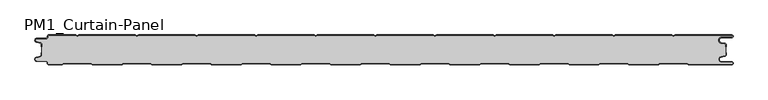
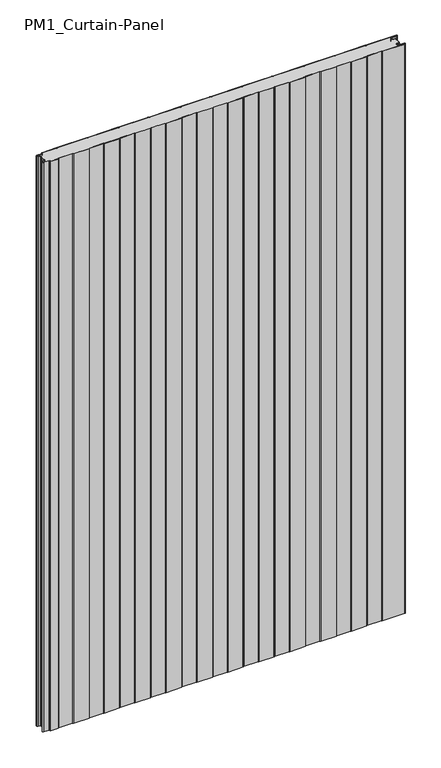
"""IFC4 building model written with IfcOpenShell, lengths in millimetres: plate geometry, PM1_Curtain-Panel : ACH_PM1_Stone-wool-Panel_50M."""

from ifc_helpers import new_model, si_unit, point, frame_2d, origin, origin_with_axes, place, context, project, spatial, polyline, circle_curve, trimmed, segment, composite_curve, outline, extrude, source, transform, mapped, element, save


def pm1_curtain_panel_a69c14b6(model_context):
    return source(origin(), model_context, "Body", "SweptSolid", [
        extrude(outline(composite_curve([segment(trimmed(circle_curve(frame_2d((-577.0, -15.878557)), 2.0), [point((-575.0, -15.878557))], [point((-576.5500978, -13.9298169))], True, "CARTESIAN"), True, "CONTINUOUS"), segment(polyline([(-576.5500978, -13.9298169), (-582.7098239, -12.507732)]), True, "CONTINUOUS"), segment(trimmed(circle_curve(frame_2d((-581.9, -9.0)), 3.6), [point((-582.7098239, -12.507732))], [point((-581.9, -5.4))], False, "CARTESIAN"), True, "CONTINUOUS"), segment(polyline([(-581.9, -5.4), (-566.4, -5.4)]), True, "CONTINUOUS"), segment(trimmed(circle_curve(frame_2d((-566.4, -3.4)), 2.0), [point((-566.4, -5.4))], [point((-564.4, -3.4))], True, "CARTESIAN"), True, "CONTINUOUS"), segment(polyline([(-564.4, -3.4), (-564.4, -2.0)]), True, "CONTINUOUS"), segment(trimmed(circle_curve(frame_2d((-562.4, -2.0)), 2.0), [point((-564.4, -2.0))], [point((-562.4, 0.0))], False, "CARTESIAN"), True, "CONTINUOUS"), segment(polyline([(-562.4, 0.0), (-517.0999995, 0.0), (-514.4, -1.5588455), (-511.7000005, 0.0), (-417.0999995, 0.0), (-414.4, -1.5588455), (-411.7000005, 0.0), (-317.0999995, 0.0), (-314.4, -1.5588455), (-311.7000005, 0.0), (-217.0999995, 0.0), (-214.4, -1.5588455), (-211.7000005, 0.0), (-117.0999995, 0.0), (-114.4, -1.5588455), (-111.7000005, 0.0), (-17.0999995, 0.0), (-14.4, -1.5588455), (-11.7000005, 0.0), (82.9000005, 0.0), (85.6, -1.5588455), (88.2999995, 0.0), (182.9000005, 0.0), (185.6, -1.5588455), (188.2999995, 0.0), (282.9000005, 0.0), (285.6, -1.5588455), (288.2999995, 0.0), (382.9000005, 0.0), (385.6, -1.5588455), (388.2999995, 0.0), (482.9000005, 0.0), (485.6, -1.5588455), (488.2999995, 0.0), (583.1, 0.0)]), True, "CONTINUOUS"), segment(trimmed(circle_curve(frame_2d((583.1, -2.5)), 2.5), [point((583.1, 0.0))], [point((583.1, -5.0))], False, "CARTESIAN"), True, "CONTINUOUS"), segment(polyline([(583.1, -5.0), (566.1, -5.0)]), True, "CONTINUOUS"), segment(trimmed(circle_curve(frame_2d((566.1, -9.0)), 4.0), [point((566.1, -5.0))], [point((565.405407, -12.939231))], True, "CARTESIAN"), True, "CONTINUOUS"), segment(polyline([(565.405407, -12.939231), (571.8514855, -14.0758491)]), True, "CONTINUOUS"), segment(trimmed(circle_curve(frame_2d((571.4, -16.6363492)), 2.6), [point((571.8514855, -14.0758491))], [point((574.0, -16.6363492))], False, "CARTESIAN"), True, "CONTINUOUS"), segment(polyline([(574.0, -16.6363492), (574.0, -20.0), (573.2, -20.0), (573.2, -16.6363492)]), True, "CONTINUOUS"), segment(trimmed(circle_curve(frame_2d((571.4, -16.6363492)), 1.8), [point((573.2, -16.6363492))], [point((571.7125669, -14.8636953))], True, "CARTESIAN"), True, "CONTINUOUS"), segment(polyline([(571.7125669, -14.8636953), (565.2664884, -13.7270772)]), True, "CONTINUOUS"), segment(trimmed(circle_curve(frame_2d((566.1, -9.0)), 4.8), [point((565.2664884, -13.7270772))], [point((566.1, -4.2))], False, "CARTESIAN"), True, "CONTINUOUS"), segment(polyline([(566.1, -4.2), (583.1, -4.2)]), True, "CONTINUOUS"), segment(trimmed(circle_curve(frame_2d((583.1, -2.5)), 1.7), [point((583.1, -4.2))], [point((583.1, -0.8))], True, "CARTESIAN"), True, "CONTINUOUS"), segment(polyline([(583.1, -0.8), (488.5143588, -0.8), (485.6, -2.482606), (482.6856412, -0.8), (388.5143588, -0.8), (385.6, -2.482606), (382.6856412, -0.8), (288.5143588, -0.8), (285.6, -2.482606), (282.6856412, -0.8), (188.5143588, -0.8), (185.6, -2.482606), (182.6856412, -0.8), (88.5143588, -0.8), (85.6, -2.482606), (82.6856412, -0.8), (-11.4856412, -0.8), (-14.4, -2.482606), (-17.3143588, -0.8), (-111.4856412, -0.8), (-114.4, -2.482606), (-117.3143588, -0.8), (-211.4856412, -0.8), (-214.4, -2.482606), (-217.3143588, -0.8), (-311.4856412, -0.8), (-314.4, -2.482606), (-317.3143588, -0.8), (-411.4856412, -0.8), (-414.4, -2.482606), (-417.3143588, -0.8), (-511.4856412, -0.8), (-514.4, -2.482606), (-517.3143588, -0.8), (-562.4, -0.8)]), True, "CONTINUOUS"), segment(trimmed(circle_curve(frame_2d((-562.4, -2.0)), 1.2), [point((-562.4, -0.8))], [point((-563.6, -2.0))], True, "CARTESIAN"), True, "CONTINUOUS"), segment(polyline([(-563.6, -2.0), (-563.6, -3.4)]), True, "CONTINUOUS"), segment(trimmed(circle_curve(frame_2d((-566.4, -3.4)), 2.8), [point((-563.6, -3.4))], [point((-566.4, -6.2))], False, "CARTESIAN"), True, "CONTINUOUS"), segment(polyline([(-566.4, -6.2), (-581.9, -6.2)]), True, "CONTINUOUS"), segment(trimmed(circle_curve(frame_2d((-581.9, -9.0)), 2.8), [point((-581.9, -6.2))], [point((-582.529863, -11.7282362))], True, "CARTESIAN"), True, "CONTINUOUS"), segment(polyline([(-582.529863, -11.7282362), (-576.370137, -13.150321)]), True, "CONTINUOUS"), segment(trimmed(circle_curve(frame_2d((-577.0, -15.878557)), 2.8), [point((-576.370137, -13.150321))], [point((-574.2, -15.878557))], False, "CARTESIAN"), True, "CONTINUOUS"), segment(polyline([(-574.2, -15.878557), (-574.2, -20.0), (-575.0, -20.0), (-575.0, -15.878557)]), True, "CONTINUOUS")], self_intersect=False)), origin_with_axes(), (0.0, 0.0, 1.0), 1945.7507136),
        extrude(outline(composite_curve([segment(polyline([(-574.2, -34.121443), (-574.2, -15.8785573)]), True, "CONTINUOUS"), segment(trimmed(circle_curve(frame_2d((-577.0, -15.8785573)), 2.8), [point((-574.2, -15.8785573))], [point((-576.370137, -13.1503212))], True, "CARTESIAN"), True, "CONTINUOUS"), segment(polyline([(-576.370137, -13.1503212), (-582.5298631, -11.7282362)]), True, "CONTINUOUS"), segment(trimmed(circle_curve(frame_2d((-581.9, -9.0)), 2.8), [point((-582.5298631, -11.7282362))], [point((-581.9, -6.2))], False, "CARTESIAN"), True, "CONTINUOUS"), segment(polyline([(-581.9, -6.2), (-566.4000001, -6.2)]), True, "CONTINUOUS"), segment(trimmed(circle_curve(frame_2d((-566.4000001, -3.4)), 2.8), [point((-566.4000001, -6.2))], [point((-563.6000001, -3.4))], True, "CARTESIAN"), True, "CONTINUOUS"), segment(polyline([(-563.6000001, -3.4), (-563.6000001, -2.0)]), True, "CONTINUOUS"), segment(trimmed(circle_curve(frame_2d((-562.4000001, -2.0)), 1.2), [point((-563.6000001, -2.0))], [point((-562.4000001, -0.8))], False, "CARTESIAN"), True, "CONTINUOUS"), segment(polyline([(-562.4000001, -0.8), (-517.3143589, -0.8), (-514.4000001, -2.482606), (-511.4856412, -0.8), (-417.3143589, -0.8), (-414.4000001, -2.482606), (-411.4856412, -0.8), (-317.3143589, -0.8), (-314.4000001, -2.482606), (-311.4856412, -0.8), (-217.3143589, -0.8), (-214.4000001, -2.482606), (-211.4856412, -0.8), (-117.3143589, -0.8), (-114.4000001, -2.482606), (-111.4856412, -0.8), (-17.3143589, -0.8), (-14.4000001, -2.482606), (-11.4856412, -0.8), (82.6856411, -0.8), (85.5999999, -2.482606), (88.5143588, -0.8), (182.6856411, -0.8), (185.5999999, -2.482606), (188.5143588, -0.8), (282.6856411, -0.8), (285.5999999, -2.482606), (288.5143588, -0.8), (382.6856411, -0.8), (385.5999999, -2.482606), (388.5143588, -0.8), (482.6856411, -0.8), (485.6, -2.482606), (488.5143588, -0.8), (583.1, -0.8)]), True, "CONTINUOUS"), segment(trimmed(circle_curve(frame_2d((583.1, -2.5)), 1.7), [point((583.1, -0.8))], [point((583.1, -4.2))], False, "CARTESIAN"), True, "CONTINUOUS"), segment(polyline([(583.1, -4.2), (566.1, -4.2)]), True, "CONTINUOUS"), segment(trimmed(circle_curve(frame_2d((566.1, -9.0)), 4.8), [point((566.1, -4.2))], [point((565.2664883, -13.7270771))], True, "CARTESIAN"), True, "CONTINUOUS"), segment(polyline([(565.2664883, -13.7270771), (571.7125668, -14.8636953)]), True, "CONTINUOUS"), segment(trimmed(circle_curve(frame_2d((571.4, -16.6363492)), 1.8), [point((571.7125668, -14.8636953))], [point((573.2, -16.6363492))], False, "CARTESIAN"), True, "CONTINUOUS"), segment(polyline([(573.2, -16.6363492), (573.2, -33.363652)]), True, "CONTINUOUS"), segment(trimmed(circle_curve(frame_2d((571.4, -33.363652)), 1.8), [point((573.2, -33.363652))], [point((571.7125666, -35.136306))], False, "CARTESIAN"), True, "CONTINUOUS"), segment(polyline([(571.7125666, -35.136306), (565.266489, -36.2729231)]), True, "CONTINUOUS"), segment(trimmed(circle_curve(frame_2d((566.1, -41.0000002)), 4.7999999), [point((565.266489, -36.2729231))], [point((566.1, -45.8000001))], True, "CARTESIAN"), True, "CONTINUOUS"), segment(polyline([(566.1, -45.8000001), (583.1, -45.8000001)]), True, "CONTINUOUS"), segment(trimmed(circle_curve(frame_2d((583.1, -47.5)), 1.7), [point((583.1, -45.8000001))], [point((583.1, -49.2))], False, "CARTESIAN"), True, "CONTINUOUS"), segment(polyline([(583.1, -49.2), (510.8105122, -49.2), (508.2124346, -47.7), (462.9837184, -47.7), (460.3856408, -49.2), (410.8105122, -49.2), (408.2124346, -47.7), (362.9837184, -47.7), (360.3856408, -49.2), (310.8105122, -49.2), (308.2124346, -47.7), (262.9837184, -47.7), (260.3856408, -49.2), (210.8105122, -49.2), (208.2124346, -47.7), (162.9837184, -47.7), (160.3856408, -49.2), (110.8105122, -49.2), (108.2124346, -47.7), (62.9837184, -47.7), (60.3856408, -49.2), (10.8105122, -49.2), (8.2124346, -47.7), (-37.0162816, -47.7), (-39.6143592, -49.2), (-89.1894878, -49.2), (-91.7875654, -47.7), (-137.0162816, -47.7), (-139.6143592, -49.2), (-189.1894878, -49.2), (-191.7875654, -47.7), (-237.0162816, -47.7), (-239.6143592, -49.2), (-289.1894878, -49.2), (-291.7875654, -47.7), (-337.0162816, -47.7), (-339.6143592, -49.2), (-389.1894878, -49.2), (-391.7875654, -47.7), (-437.0162816, -47.7), (-439.6143592, -49.2), (-489.1894878, -49.2), (-491.7875654, -47.7), (-537.0162816, -47.7), (-539.6143592, -49.2), (-562.4, -49.2)]), True, "CONTINUOUS"), segment(trimmed(circle_curve(frame_2d((-562.4, -48.0)), 1.2), [point((-562.4, -49.2))], [point((-563.6, -48.0))], False, "CARTESIAN"), True, "CONTINUOUS"), segment(polyline([(-563.6, -48.0), (-563.6, -46.5999998)]), True, "CONTINUOUS"), segment(trimmed(circle_curve(frame_2d((-566.4, -46.5999998)), 2.8), [point((-563.6, -46.5999998))], [point((-566.4, -43.7999998))], True, "CARTESIAN"), True, "CONTINUOUS"), segment(polyline([(-566.4, -43.7999998), (-581.9, -43.7999998)]), True, "CONTINUOUS"), segment(trimmed(circle_curve(frame_2d((-581.9, -41.0)), 2.7999998), [point((-581.9, -43.7999998))], [point((-582.529863, -38.271764))], False, "CARTESIAN"), True, "CONTINUOUS"), segment(polyline([(-582.529863, -38.271764), (-576.370137, -36.8496792)]), True, "CONTINUOUS"), segment(trimmed(circle_curve(frame_2d((-577.0, -34.121443)), 2.8), [point((-576.370137, -36.8496792))], [point((-574.2, -34.121443))], True, "CARTESIAN"), True, "CONTINUOUS")], self_intersect=False)), origin_with_axes(), (0.0, 0.0, 1.0), 1945.7507136),
        extrude(outline(composite_curve([segment(trimmed(circle_curve(frame_2d((-562.4, -48.0)), 2.0), [point((-562.4, -50.0))], [point((-564.4, -48.0))], False, "CARTESIAN"), True, "CONTINUOUS"), segment(polyline([(-564.4, -48.0), (-564.4, -46.6)]), True, "CONTINUOUS"), segment(trimmed(circle_curve(frame_2d((-566.4, -46.6)), 2.0), [point((-564.4, -46.6))], [point((-566.4, -44.6))], True, "CARTESIAN"), True, "CONTINUOUS"), segment(polyline([(-566.4, -44.6), (-581.9, -44.6)]), True, "CONTINUOUS"), segment(trimmed(circle_curve(frame_2d((-581.9, -41.0)), 3.6), [point((-581.9, -44.6))], [point((-582.7098239, -37.4922678))], False, "CARTESIAN"), True, "CONTINUOUS"), segment(polyline([(-582.7098239, -37.4922678), (-576.5500979, -36.070183)]), True, "CONTINUOUS"), segment(trimmed(circle_curve(frame_2d((-577.0, -34.121443)), 2.0), [point((-576.5500979, -36.070183))], [point((-575.0, -34.121443))], True, "CARTESIAN"), True, "CONTINUOUS"), segment(polyline([(-575.0, -34.121443), (-575.0, -30.0), (-574.2, -30.0), (-574.2, -34.121443)]), True, "CONTINUOUS"), segment(trimmed(circle_curve(frame_2d((-577.0, -34.121443)), 2.8), [point((-574.2, -34.121443))], [point((-576.370137, -36.8496792))], False, "CARTESIAN"), True, "CONTINUOUS"), segment(polyline([(-576.370137, -36.8496792), (-582.529863, -38.271764)]), True, "CONTINUOUS"), segment(trimmed(circle_curve(frame_2d((-581.9, -41.0)), 2.8), [point((-582.529863, -38.271764))], [point((-581.9, -43.8))], True, "CARTESIAN"), True, "CONTINUOUS"), segment(polyline([(-581.9, -43.8), (-566.4, -43.8)]), True, "CONTINUOUS"), segment(trimmed(circle_curve(frame_2d((-566.4, -46.6)), 2.8), [point((-566.4, -43.8))], [point((-563.6, -46.6))], False, "CARTESIAN"), True, "CONTINUOUS"), segment(polyline([(-563.6, -46.6), (-563.6, -48.0)]), True, "CONTINUOUS"), segment(trimmed(circle_curve(frame_2d((-562.4, -48.0)), 1.2), [point((-563.6, -48.0))], [point((-562.4, -49.2))], True, "CARTESIAN"), True, "CONTINUOUS"), segment(polyline([(-562.4, -49.2), (-539.6143592, -49.2), (-537.0162816, -47.7), (-491.7875654, -47.7), (-489.1894878, -49.2), (-439.6143592, -49.2), (-437.0162816, -47.7), (-391.7875654, -47.7), (-389.1894878, -49.2), (-339.6143592, -49.2), (-337.0162816, -47.7), (-291.7875654, -47.7), (-289.1894878, -49.2), (-239.6143592, -49.2), (-237.0162816, -47.7), (-191.7875654, -47.7), (-189.1894878, -49.2), (-139.6143592, -49.2), (-137.0162816, -47.7), (-91.7875654, -47.7), (-89.1894878, -49.2), (-39.6143592, -49.2), (-37.0162816, -47.7), (8.2124346, -47.7), (10.8105122, -49.2), (60.3856408, -49.2), (62.9837184, -47.7), (108.2124346, -47.7), (110.8105122, -49.2), (160.3856408, -49.2), (162.9837184, -47.7), (208.2124346, -47.7), (210.8105122, -49.2), (260.3856408, -49.2), (262.9837184, -47.7), (308.2124346, -47.7), (310.8105122, -49.2), (360.3856408, -49.2), (362.9837184, -47.7), (408.2124346, -47.7), (410.8105122, -49.2), (460.3856408, -49.2), (462.9837184, -47.7), (508.2124346, -47.7), (510.8105122, -49.2), (583.1, -49.2)]), True, "CONTINUOUS"), segment(trimmed(circle_curve(frame_2d((583.1, -47.5)), 1.7), [point((583.1, -49.2))], [point((583.1, -45.8))], True, "CARTESIAN"), True, "CONTINUOUS"), segment(polyline([(583.1, -45.8), (566.1, -45.8)]), True, "CONTINUOUS"), segment(trimmed(circle_curve(frame_2d((566.1, -41.0)), 4.8), [point((566.1, -45.8))], [point((565.266489, -36.2729227))], False, "CARTESIAN"), True, "CONTINUOUS"), segment(polyline([(565.266489, -36.2729227), (571.7125666, -35.1363058)]), True, "CONTINUOUS"), segment(trimmed(circle_curve(frame_2d((571.4, -33.363652)), 1.8), [point((571.7125666, -35.1363058))], [point((573.2, -33.363652))], True, "CARTESIAN"), True, "CONTINUOUS"), segment(polyline([(573.2, -33.363652), (573.2, -30.0), (574.0, -30.0), (574.0, -33.363652)]), True, "CONTINUOUS"), segment(trimmed(circle_curve(frame_2d((571.4, -33.363652)), 2.6), [point((574.0, -33.363652))], [point((571.8514851, -35.9241522))], False, "CARTESIAN"), True, "CONTINUOUS"), segment(polyline([(571.8514851, -35.9241522), (565.4054075, -37.0607691)]), True, "CONTINUOUS"), segment(trimmed(circle_curve(frame_2d((566.1, -41.0)), 4.0), [point((565.4054075, -37.0607691))], [point((566.1, -45.0))], True, "CARTESIAN"), True, "CONTINUOUS"), segment(polyline([(566.1, -45.0), (583.1, -45.0)]), True, "CONTINUOUS"), segment(trimmed(circle_curve(frame_2d((583.1, -47.5)), 2.5), [point((583.1, -45.0))], [point((583.1, -50.0))], False, "CARTESIAN"), True, "CONTINUOUS"), segment(polyline([(583.1, -50.0), (510.5961529, -50.0), (507.9980753, -48.5), (463.1980777, -48.5), (460.6000001, -50.0), (410.5961529, -50.0), (407.9980753, -48.5), (363.1980777, -48.5), (360.6000001, -50.0), (310.5961529, -50.0), (307.9980753, -48.5), (263.1980777, -48.5), (260.6000001, -50.0), (210.5961529, -50.0), (207.9980753, -48.5), (163.1980777, -48.5), (160.6000001, -50.0), (110.5961529, -50.0), (107.9980753, -48.5), (63.1980777, -48.5), (60.6000001, -50.0), (10.5961529, -50.0), (7.9980753, -48.5), (-36.8019223, -48.5), (-39.3999999, -50.0), (-89.4038471, -50.0), (-92.0019247, -48.5), (-136.8019223, -48.5), (-139.3999999, -50.0), (-189.4038471, -50.0), (-192.0019247, -48.5), (-236.8019223, -48.5), (-239.3999999, -50.0), (-289.4038471, -50.0), (-292.0019247, -48.5), (-336.8019223, -48.5), (-339.3999999, -50.0), (-389.4038471, -50.0), (-392.0019247, -48.5), (-436.8019223, -48.5), (-439.3999999, -50.0), (-489.4038471, -50.0), (-492.0019247, -48.5), (-536.8019223, -48.5), (-539.3999999, -50.0), (-562.4, -50.0)]), True, "CONTINUOUS")], self_intersect=False)), origin_with_axes(), (0.0, 0.0, 1.0), 1945.7507136),
    ])


if __name__ == "__main__":
    model = new_model("IFC4")
    model_context = context("Model", 3, world=origin())
    ifc_project = project(units=[si_unit("LENGTHUNIT", "METRE", prefix="MILLI")], contexts=[model_context])
    site = spatial("IfcSite", under=ifc_project)
    building = spatial("IfcBuilding", under=site)
    placement = place(None, origin())
    pm1_curtain_panel_shape = pm1_curtain_panel_a69c14b6(model_context)
    element("IfcPlate", 1, ObjectType="PM1_Curtain-Panel : ACH_PM1_Stone-wool-Panel_50M", at=placement, inside=building, context=model_context, shape_type="MappedRepresentation", body=[
        mapped(pm1_curtain_panel_shape, transform((0.0, 0.0, 0.0), x_axis=(1.0, 0.0, 0.0), y_axis=(0.0, 1.0, 0.0), z_axis=(0.0, 0.0, 1.0))),
    ])
    save(model, "model.ifc")
